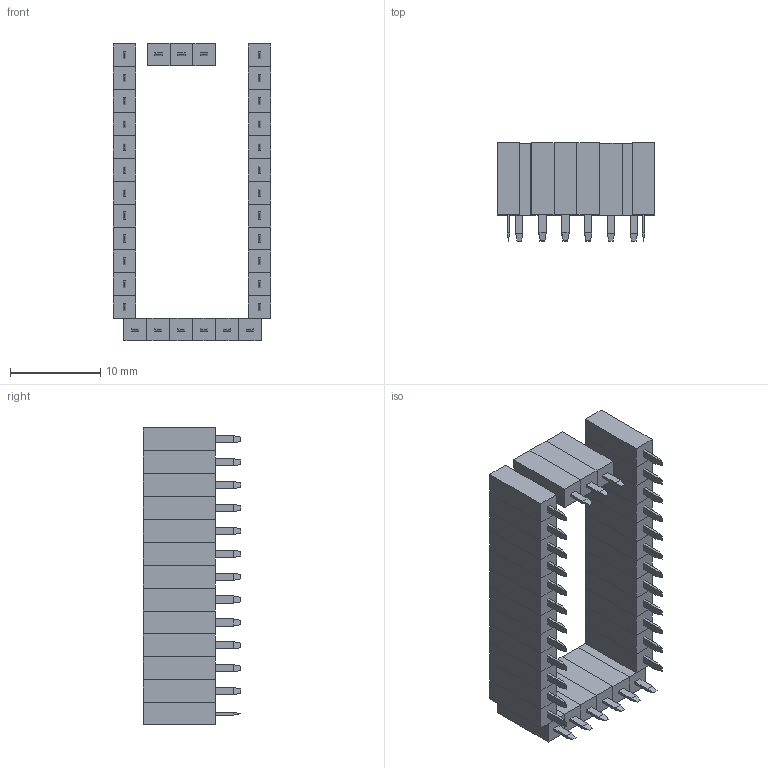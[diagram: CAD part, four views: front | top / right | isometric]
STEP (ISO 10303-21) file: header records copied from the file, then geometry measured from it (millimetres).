
FILE_DESCRIPTION(/* description */ (''),/* implementation_level */ '2;1');
FILE_NAME(/* name */ '/Volumes/Extern/Google Drive/Personal Projects/eagle/IBlocks v3/arduino nano connector v2.step',/* time_stamp */ '2017-08-11T13:47:33+03:00',/* author */ (''),/* organization */ (''),/* preprocessor_version */ 'ST-DEVELOPER v16.13',/* originating_system */ 'Autodesk Translation Framework v6.1.1.50',/* authorisation */ '');
FILE_SCHEMA (('AUTOMOTIVE_DESIGN { 1 0 10303 214 3 1 1 }'));
Length unit declared in the file: millimetre
Products named in the file (4): arduino nano connector v2; female pins v1 1x12 v1; female pins v1 1x3 v1; female pins v1 1x6 v1
Assembly tree (4 placements, depth 2):
  arduino nano connector v2
    female pins v1 1x12 v1  x2
    female pins v1 1x3 v1
    female pins v1 1x6 v1
Bounding box: 17.5 x 10.85 x 33.06 mm (x, y, z)
Volume: 1459.7 mm3; surface area: 4834.6 mm2
Topology: 66 solids, 66 shells, 957 faces, 2046 edges, 1254 vertices
Faces by surface type: plane 957
Entity records: 15905 total; most frequent: CARTESIAN_POINT 2717, ORIENTED_EDGE 2646, DIRECTION 2536, LINE 1302, VECTOR 1302, EDGE_CURVE 1302, VERTEX_POINT 798, EDGE_LOOP 630
